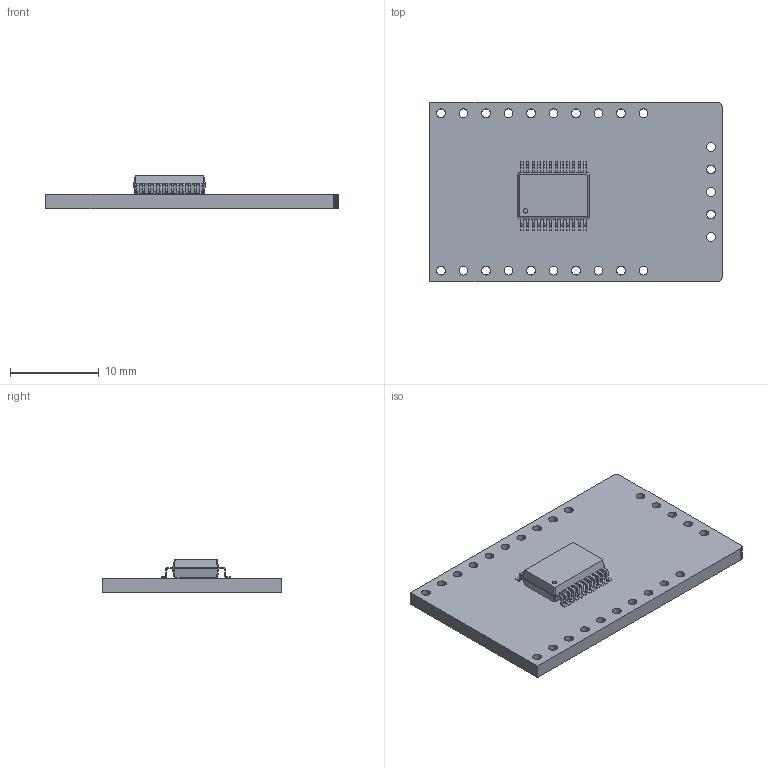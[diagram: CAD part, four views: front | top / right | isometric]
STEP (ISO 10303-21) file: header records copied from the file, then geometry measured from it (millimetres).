
FILE_DESCRIPTION(('KiCad electronic assembly'),'2;1');
FILE_NAME('PCF8575.step','2023-11-09T17:04:12',('Pcbnew'),('Kicad'), 'Open CASCADE STEP processor 7.6','KiCad to STEP converter','Unknown' );
FILE_SCHEMA(('AUTOMOTIVE_DESIGN { 1 0 10303 214 1 1 1 1 }'));
Length unit declared in the file: millimetre
Products named in the file (4): PCF8575 1; SSOP-24_5.3x8.2mm_P0.65mm; SOLID; _autosave-PCF8575 PCB
Assembly tree (3 placements, depth 3):
  PCF8575 1
    SSOP-24_5.3x8.2mm_P0.65mm
      SOLID
    _autosave-PCF8575 PCB
Bounding box: 33.02 x 20.32 x 3.75 mm (x, y, z)
Volume: 1125.6 mm3; surface area: 1772.9 mm2
Topology: 2 solids, 2 shells, 439 faces, 1182 edges, 748 vertices
Faces by surface type: plane 269, cylinder 122, bspline 48
Full cylindrical faces by diameter (mm): 0.5 x1, 0.991 x25
Entity records: 32289 total; most frequent: CARTESIAN_POINT 6045, DIRECTION 4284, LINE 2908, VECTOR 2908, ORIENTED_EDGE 2364, PCURVE 2364, DEFINITIONAL_REPRESENTATION 2364, EDGE_CURVE 1182
